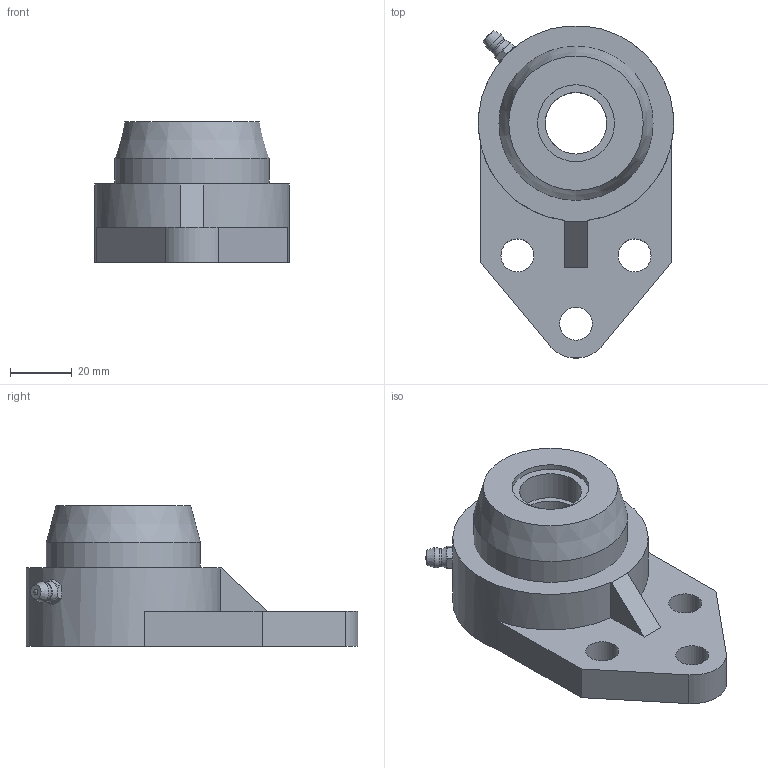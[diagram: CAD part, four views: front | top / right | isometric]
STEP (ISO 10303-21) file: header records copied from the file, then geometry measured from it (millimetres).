
FILE_DESCRIPTION(/* description */ (''),/* implementation_level */ '2;1');
FILE_NAME(/* name */ 'C:\Users\UGijyutu_200702\Desktop\77.プラスチックハウジング\MBFBL200V\MBFBL200VC\MBFBL204VC.stp',/* time_stamp */ '2023-05-08T16:16:54+09:00',/* author */ ('UGijyutu_200702'),/* organization */ (''),/* preprocessor_version */ 'ST-DEVELOPER v18',/* originating_system */ 'Autodesk Inventor 2020',/* authorisation */ '');
FILE_SCHEMA (('AUTOMOTIVE_DESIGN { 1 0 10303 214 3 1 1 }'));
Length unit declared in the file: millimetre
Products named in the file (5): MBFBL204VC; FBL204; MB4 V; 1/4-28UNF-2A; 204C
Assembly tree (4 placements, depth 2):
  MBFBL204VC
    FBL204
    MB4 V
    1/4-28UNF-2A
    204C
Bounding box: 63.43 x 107.85 x 45.8 mm (x, y, z)
Volume: 95932.4 mm3; surface area: 37110.1 mm2
Topology: 4 solids, 4 shells, 96 faces, 234 edges, 161 vertices
Faces by surface type: plane 49, cylinder 24, cone 17, sphere 4, torus 2
Full cylindrical faces by diameter (mm): 3.2 x1, 4.978 x1, 5 x2, 6.35 x1, 10.7 x3, 20 x2, 25 x1, 29 x1, 35.6 x1, 46.5 x1, 49.8 x2, 50.1 x1, 52 x1
Entity records: 3325 total; most frequent: CARTESIAN_POINT 754, DIRECTION 511, ORIENTED_EDGE 466, EDGE_CURVE 233, AXIS2_PLACEMENT_3D 211, VERTEX_POINT 161, EDGE_LOOP 126, CIRCLE 106
